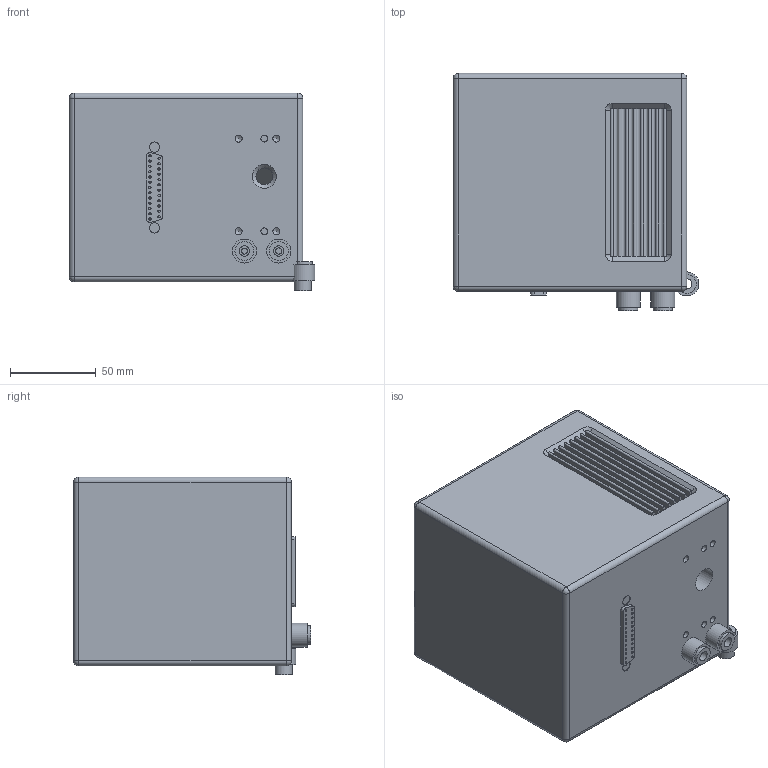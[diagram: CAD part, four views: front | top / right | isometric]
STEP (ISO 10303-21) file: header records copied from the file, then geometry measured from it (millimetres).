
FILE_DESCRIPTION( ( 'Unknown' ), '1' );
FILE_NAME( 'C:/Users/guow115776/Desktop/10mm杅趼源芛俋倛_0.stp', 'Unknown', ( 'Unknown' ), ( 'Unknown' ), 'XStep 1.0', 'Unknown', ' ' );
FILE_SCHEMA( ( 'CONFIG_CONTROL_DESIGN' ) );
Length unit declared in the file: millimetre
Products named in the file (4): Assem1; 1; 2; 3
Bounding box: 143.1 x 138.1 x 115.22 mm (x, y, z)
Surface area: 334277.9 mm2
Topology: 7 solids, 17 shells, 832 faces, 1987 edges, 1281 vertices
Faces by surface type: plane 468, cylinder 314, cone 34, sphere 16
Full cylindrical faces by diameter (mm): 1.3 x50, 2.013 x4, 2.459 x4, 3.242 x16, 3.514 x2, 3.598 x2, 4 x4, 4.134 x8, 6 x7, 6.225 x2, 6.738 x2, 9.8 x2, 10 x3, 11 x3, 14 x5, 22 x4, 23 x4, 35 x4, 39 x4, 51 x2, 79 x2, 81 x2
Entity records: 11509 total; most frequent: CARTESIAN_POINT 2146, DIRECTION 1997, ORIENTED_EDGE 1702, EDGE_CURVE 851, AXIS2_PLACEMENT_3D 752, VERTEX_POINT 589, EDGE_LOOP 548, LINE 493
